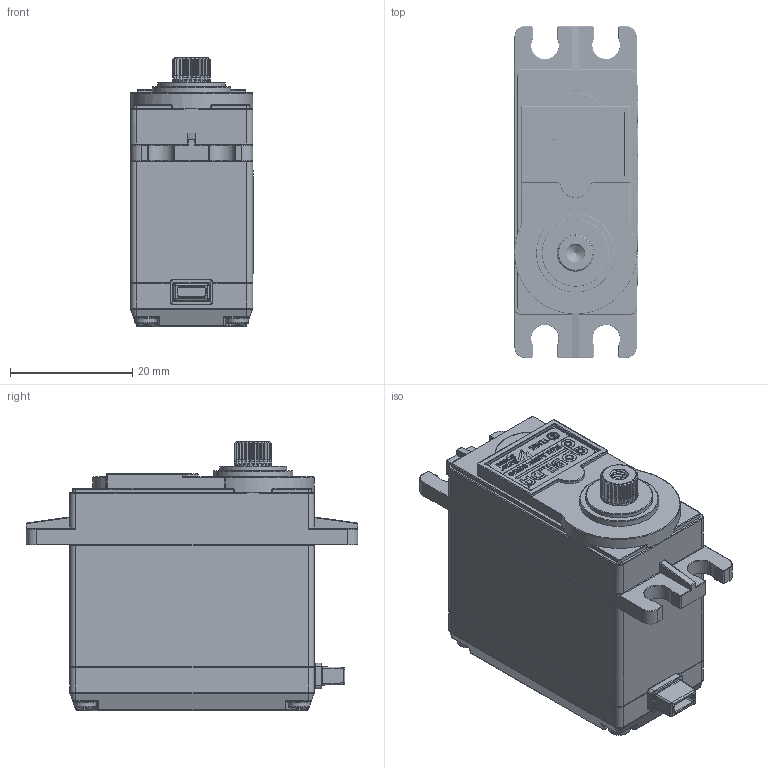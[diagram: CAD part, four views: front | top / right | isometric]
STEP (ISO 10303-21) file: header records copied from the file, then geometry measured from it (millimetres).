
FILE_DESCRIPTION(/* description */ ('STEP AP214'),/* implementation_level */ '2;1');
FILE_NAME(/* name */ '627ebf8a8cc0414f7253cab3',/* time_stamp */ '2022-05-13T20:29:02+00:00',/* author */ (''),/* organization */ (''),/* preprocessor_version */ 'ST-DEVELOPER v18.101',/* originating_system */ ' ',/* authorisation */ ' ');
FILE_SCHEMA (('AUTOMOTIVE_DESIGN {1 0 10303 214 3 1 1}'));
Products named in the file (13): 2000-0025-0504 v2; 2000-0025-0504 Labels v2 <1>; Top Label; Side Label; 2000 Series Servo v8 <1>; Spline; Body <1>; Botcase; Wire Seal; Hardware <1>; Screw; Midcase; Topcase
Assembly tree (15 placements, depth 5):
  2000-0025-0504 v2
    2000-0025-0504 Labels v2 <1>
      Top Label
      Side Label
    2000 Series Servo v8 <1>
      Spline
      Body <1>
        Botcase
        Wire Seal
        Hardware <1>
          Screw  x4
        Midcase
        Topcase
Bounding box: 20.15 x 54.3 x 44.1 mm (x, y, z)
Volume: 31089.6 mm3; surface area: 13099.8 mm2
Topology: 11 solids, 11 shells, 2605 faces, 6860 edges, 4471 vertices
Faces by surface type: plane 1341, cylinder 524, bspline 463, torus 122, cone 117, sphere 38
Full cylindrical faces by diameter (mm): 0.624 x1, 0.625 x1, 0.685 x1, 0.931 x3, 0.982 x3, 1.5 x4, 2 x4, 2.031 x3, 2.092 x1, 6.1 x1, 6.25 x1, 11 x1, 12.9 x1
Entity records: 95945 total; most frequent: CARTESIAN_POINT 28933, ORIENTED_EDGE 12964, DIRECTION 10848, EDGE_CURVE 6482, VERTEX_POINT 4249, LINE 3740, VECTOR 3740, AXIS2_PLACEMENT_3D 3554
